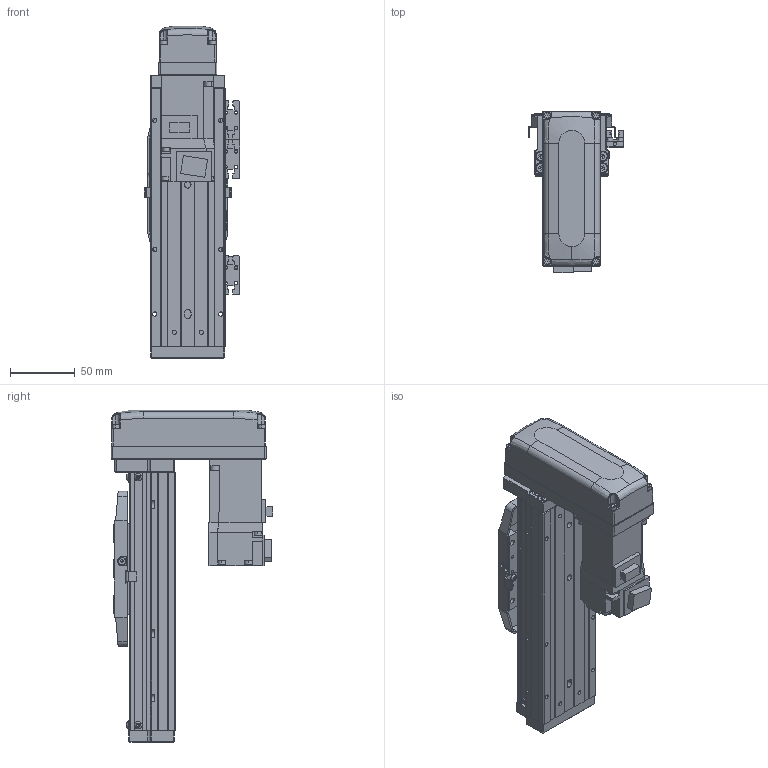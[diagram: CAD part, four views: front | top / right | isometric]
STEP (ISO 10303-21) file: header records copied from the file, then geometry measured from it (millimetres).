
FILE_DESCRIPTION (( 'STEP AP203' ), '1' );
FILE_NAME ('CTHA50-50-BM-M10-C4L.step', '2022-03-19T06:03:47', ( '微软用户' ), ( '微软中国' ), 'SwSTEP 2.0', 'SolidWorks 2020', '' );
FILE_SCHEMA (( 'CONFIG_CONTROL_DESIGN' ));
Length unit declared in the file: millimetre
Products named in the file (20): KTHA50-005; CTHA60-016; CTHA50-015-2_CTHA60-015-2; GB¨uT 70.2-M3¡Á6_M3¡Á6; CTHA60-021; CTHA60-033; EE_SX911P_R; HG-KR13（三菱）; GBT 70.1-M3×15; GBT77-2000 M3×3; CTHA50-002; CTHA50-50-BM-M10-C4L; GBT 70.1-M3℅6; CTHA50-030; KTHA50-001_200; CTHA60-017; CTHA50-031; KTHA50-004; GBT 70.3-M3℅6; GBT 70.1-M4×12
Assembly tree (60 placements, depth 2):
  CTHA50-50-BM-M10-C4L
    KTHA50-001_200
    KTHA50-004
    KTHA50-005
    GB¨uT 70.2-M3¡Á6_M3¡Á6  x10
    EE_SX911P_R  x3
    GBT77-2000 M3×3  x6
    GBT 70.1-M3℅6  x6
    CTHA60-017  x3
    GBT 70.1-M4×12  x10
    CTHA60-016  x2
    CTHA60-021  x2
    HG-KR13（三菱）
    CTHA50-002
    CTHA50-030  x2
    CTHA50-031
    GBT 70.3-M3℅6  x4
    CTHA50-015-2_CTHA60-015-2
    CTHA60-033
    GBT 70.1-M3×15  x4
Bounding box: 74.12 x 125.3 x 257 mm (x, y, z)
Volume: 727120.3 mm3; surface area: 194214.7 mm2
Topology: 62 solids, 62 shells, 2453 faces, 5799 edges, 3546 vertices
Faces by surface type: plane 1386, cylinder 564, cone 345, torus 108, bspline 26, sphere 24
Entity records: 40747 total; most frequent: CARTESIAN_POINT 7547, DIRECTION 6315, ORIENTED_EDGE 6106, EDGE_CURVE 3053, VECTOR 2127, LINE 2127, AXIS2_PLACEMENT_3D 2094, VERTEX_POINT 1920
